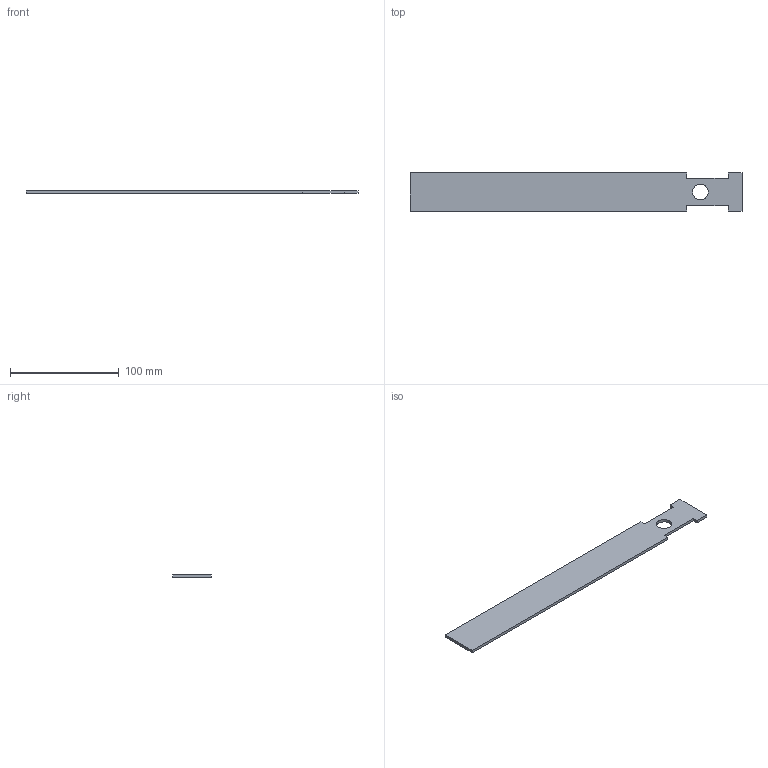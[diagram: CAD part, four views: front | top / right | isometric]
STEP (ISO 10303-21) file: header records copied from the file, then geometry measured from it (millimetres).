
FILE_DESCRIPTION(('TurboCAD Mac Pro'),'Build 980');
FILE_NAME('P1660A.stp',' ',(''),(''),'ACIS Interop','IMSI','TurboCAD Mac Pro BY IMSI, INCORPORATED');
FILE_SCHEMA(('automotive_design'));
Length unit declared in the file: inch
Products named in the file (1): 1
Bounding box: 304.8 x 34.93 x 2.67 mm (x, y, z)
Volume: 26995.3 mm3; surface area: 22226.5 mm2
Topology: 1 solids, 1 shells, 18 faces, 48 edges, 32 vertices
Faces by surface type: plane 14, bspline 4
Entity records: 748 total; most frequent: CARTESIAN_POINT 151, ORIENTED_EDGE 96, DIRECTION 70, EDGE_CURVE 48, LINE 40, VECTOR 40, VERTEX_POINT 32, EDGE_LOOP 20
